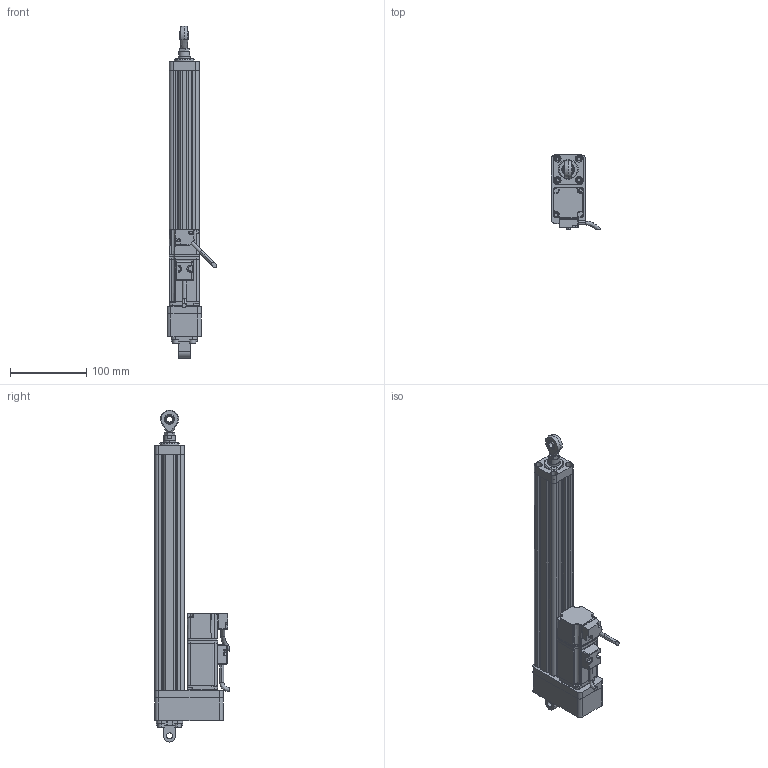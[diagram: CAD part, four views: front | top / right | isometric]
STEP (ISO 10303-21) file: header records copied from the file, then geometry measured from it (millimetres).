
FILE_DESCRIPTION (( 'STEP AP214' ), '1' );
FILE_NAME ('039-S250-D02-B-M5-C4-2.STEP', '2021-03-02T04:57:54', ( '' ), ( '' ), 'SwSTEP 2.0', 'SolidWorks 2018', '' );
FILE_SCHEMA (( 'AUTOMOTIVE_DESIGN' ));
Length unit declared in the file: millimetre
Products named in the file (10): CMC039-DT; CMC039-FL; F-ACE20CA_ACE_; ECMA-CX0401ES-40框號系列機種-100W低慣量系列; CMC039-HXT; CMC039-LJB; BNC51-SA8T_K-R; CMC039-GT; GB／T6174-2000六角薄螺母无倒角M8; 039-S250-D02-B-M5-C4-2
Assembly tree (9 placements, depth 2):
  039-S250-D02-B-M5-C4-2
    CMC039-GT
    CMC039-LJB
    CMC039-FL
    CMC039-DT
    ECMA-CX0401ES-40框號系列機種-100W低慣量系列
    CMC039-HXT
    F-ACE20CA_ACE_
    GB／T6174-2000六角薄螺母无倒角M8
    BNC51-SA8T_K-R
Bounding box: 65.33 x 97.89 x 436 mm (x, y, z)
Volume: 550323.7 mm3; surface area: 184954.8 mm2
Topology: 10 solids, 18 shells, 807 faces, 2112 edges, 1324 vertices
Faces by surface type: cylinder 327, plane 315, bspline 102, cone 63
Entity records: 32316 total; most frequent: CARTESIAN_POINT 12833, ORIENTED_EDGE 4138, DIRECTION 3501, EDGE_CURVE 2069, VERTEX_POINT 1324, AXIS2_PLACEMENT_3D 1253, LINE 995, VECTOR 995
